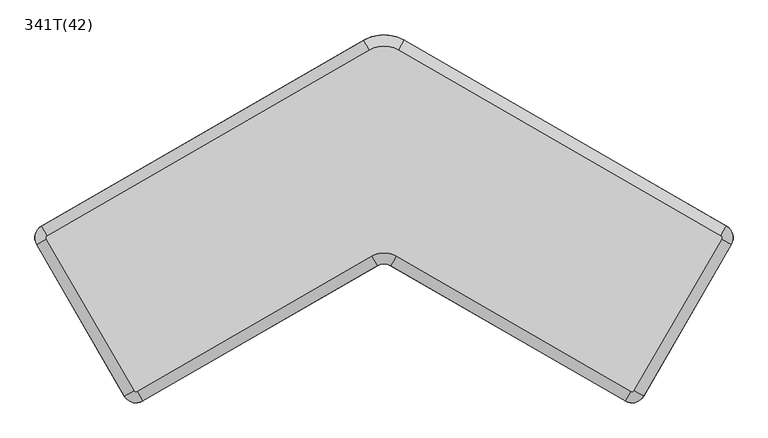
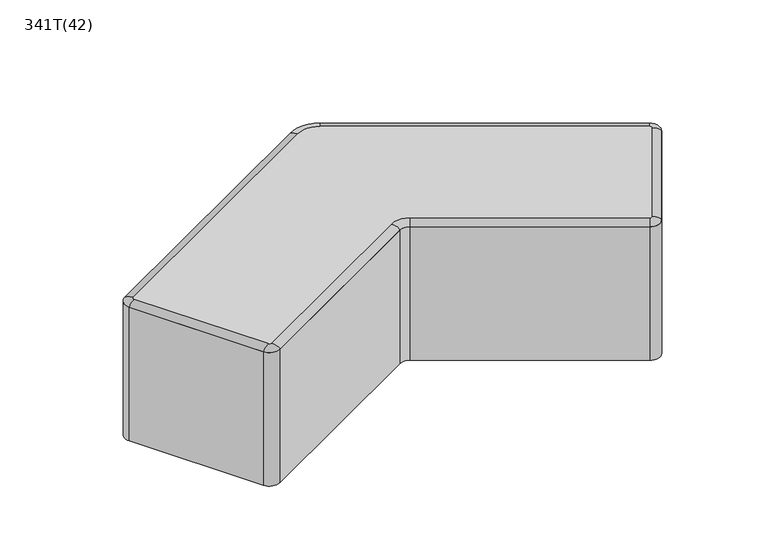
"""IFC4 building model written with IfcOpenShell, lengths in millimetres: furniture geometry, Bit Twist : 341T(42)."""

from ifc_helpers import new_model, si_unit, point, frame, frame_2d, origin, origin_with_axes, place, context, project, spatial, polyline, circle_curve, ellipse_curve, trimmed, segment, composite_curve, outline, extrude, source, transform, mapped, element, save
from ifc_brep_helpers import plane_surface, revolved_surface, extruded_surface, advanced_brep


def furniture_341t_42_9560d308(model_context):
    return source(origin(), model_context, "Body", "SolidModel", [
        advanced_brep(
        [(751.2658774, -13.4807621, 420.0), (749.4359482, -6.6507494, 420.0), (32.5025725, 407.3146157, 420.0), (-32.5036954, 407.3139674, 420.0), (-749.4030097, -6.6507993, 420.0), (-751.2330358, -13.4804445, 420.0), (-556.2660606, -351.230352, 420.0), (-549.4357503, -353.0607966, 420.0), (-27.5, -51.7210506, 420.0), (27.5, -51.7210506, 420.0), (549.4357503, -353.0607966, 420.0), (556.2658774, -351.2306696, 420.0), (772.9165125, -25.9807621, 410.0), (761.9369377, 14.9993145, 410.0), (45.003562, 428.9646795, 410.0), (-45.0051168, 428.9637819, 410.0), (-761.904431, 14.9990151, 410.0), (-772.8845875, -25.9788567, 410.0), (-577.9176124, -363.7287641, 410.0), (-536.9357503, -374.7114317, 410.0), (-15.0, -73.3716857, 410.0), (15.0, -73.3716857, 410.0), (536.9357503, -374.7114317, 410.0), (577.9165125, -363.7306696, 410.0)],
        [
            (0, 1, circle_curve(frame((746.9357503, -10.9807621, 420.0), z_axis=(0.0, 0.0, 1.0), x_axis=(0.8660254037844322, -0.5000000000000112, 0.0)), 5.0)),
            (1, 2),
            (2, 3, circle_curve(frame((0.0, 351.0244499, 420.0), z_axis=(0.0, 0.0, 1.0), x_axis=(0.5000395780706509, 0.8660025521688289, 0.0)), 65.0)),
            (3, 4),
            (4, 5, circle_curve(frame((-746.9027254, -10.9807621, 420.0), z_axis=(0.0, 0.0, 1.0), x_axis=(-0.5000568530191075, 0.865992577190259, 0.0)), 5.0)),
            (5, 6),
            (6, 7, circle_curve(frame((-551.9357503, -348.7306696, 420.0), z_axis=(0.0, 0.0, 1.0), x_axis=(-0.8660620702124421, -0.49993648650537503, 0.0)), 5.0)),
            (7, 8),
            (8, 9, circle_curve(frame((0.0, -99.3524479, 420.0), z_axis=(0.0, 0.0, -1.0), x_axis=(-0.5000000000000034, 0.8660254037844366, 0.0)), 55.0)),
            (9, 10),
            (10, 11, circle_curve(frame((551.9357503, -348.7306696, 420.0), z_axis=(0.0, 0.0, 1.0), x_axis=(-0.5000000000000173, -0.8660254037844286, 0.0)), 5.0)),
            (11, 0),
            (0, 12, ellipse_curve(frame((751.2658774, -13.4807621, 410.0), z_axis=(0.5000000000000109, 0.8660254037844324, 0.0), x_axis=(0.8660254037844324, -0.5000000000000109, 0.0)), 25.0, 10.0)),
            (12, 13, circle_curve(frame((746.9357503, -10.9807621, 410.0), z_axis=(0.0, 0.0, 1.0), x_axis=(0.8660254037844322, -0.5000000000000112, 0.0)), 30.0)),
            (13, 1, ellipse_curve(frame((749.4359482, -6.6507494, 410.0), z_axis=(0.8660025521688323, -0.5000395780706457, 0.0), x_axis=(0.5000395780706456, 0.866002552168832, 0.0)), 25.0, 10.0)),
            (13, 14),
            (14, 2, ellipse_curve(frame((32.5025726, 407.3146158, 410.0), z_axis=(0.8660025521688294, -0.5000395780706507, 0.0), x_axis=(0.5000395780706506, 0.8660025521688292, 0.0)), 25.0, 10.0)),
            (14, 15, circle_curve(frame((0.0, 351.0244499, 410.0), z_axis=(0.0, 0.0, 1.0), x_axis=(0.5000395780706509, 0.8660025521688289, 0.0)), 90.0)),
            (15, 3, ellipse_curve(frame((-32.5036954, 407.3139674, 410.0), z_axis=(0.8659925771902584, 0.5000568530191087, 0.0), x_axis=(-0.5000568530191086, 0.8659925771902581, 0.0)), 25.0, 10.0)),
            (15, 16),
            (16, 4, ellipse_curve(frame((-749.4030097, -6.6507992, 410.0), z_axis=(0.8659925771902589, 0.5000568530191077, 0.0), x_axis=(-0.5000568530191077, 0.8659925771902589, 0.0)), 25.0, 10.0)),
            (16, 17, circle_curve(frame((-746.9027254, -10.9807621, 410.0), z_axis=(0.0, 0.0, 1.0), x_axis=(-0.5000568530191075, 0.865992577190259, 0.0)), 30.0)),
            (17, 5, ellipse_curve(frame((-751.2330358, -13.4804445, 410.0), z_axis=(-0.4999364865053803, 0.8660620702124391, 0.0), x_axis=(-0.8660620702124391, -0.4999364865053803, 0.0)), 25.0, 10.0)),
            (17, 18),
            (18, 6, ellipse_curve(frame((-556.2660607, -351.230352, 410.0), z_axis=(-0.49993648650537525, 0.866062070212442, 0.0), x_axis=(-0.866062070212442, -0.49993648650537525, 0.0)), 25.0, 10.0)),
            (18, 19, circle_curve(frame((-551.9357503, -348.7306696, 410.0), z_axis=(0.0, 0.0, 1.0), x_axis=(-0.8660620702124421, -0.49993648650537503, 0.0)), 30.0)),
            (19, 7, ellipse_curve(frame((-549.4357503, -353.0607966, 410.0), z_axis=(-0.8660254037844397, -0.49999999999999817, 0.0), x_axis=(0.49999999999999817, -0.8660254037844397, 0.0)), 25.0, 10.0)),
            (19, 20),
            (20, 8, ellipse_curve(frame((-27.5, -51.7210506, 410.0), z_axis=(-0.8660254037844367, -0.5000000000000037, 0.0), x_axis=(0.5000000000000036, -0.8660254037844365, 0.0)), 25.0, 10.0)),
            (20, 21, circle_curve(frame((0.0, -99.3524479, 410.0), z_axis=(0.0, 0.0, -1.0), x_axis=(-0.5000000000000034, 0.8660254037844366, 0.0)), 30.0)),
            (21, 9, ellipse_curve(frame((27.5, -51.7210506, 410.0), z_axis=(-0.8660254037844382, 0.5000000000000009, 0.0), x_axis=(-0.5000000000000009, -0.8660254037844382, 0.0)), 25.0, 10.0)),
            (21, 22),
            (22, 10, ellipse_curve(frame((549.4357503, -353.0607966, 410.0), z_axis=(-0.8660254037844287, 0.5000000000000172, 0.0), x_axis=(-0.5000000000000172, -0.8660254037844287, 0.0)), 25.0, 10.0)),
            (22, 23, circle_curve(frame((551.9357503, -348.7306696, 410.0), z_axis=(0.0, 0.0, 1.0), x_axis=(-0.5000000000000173, -0.8660254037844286, 0.0)), 30.0)),
            (23, 11, ellipse_curve(frame((556.2658774, -351.2306696, 410.0), z_axis=(-0.5000000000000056, -0.8660254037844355, 0.0), x_axis=(0.8660254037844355, -0.5000000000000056, 0.0)), 25.0, 10.0)),
            (12, 23),
        ],
        [
            plane_surface(frame((32.5025726, 407.3146158, 420.0), z_axis=(0.0, 0.0, 1.0), x_axis=(-0.8660025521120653, 0.500039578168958, 0.0))),
            revolved_surface(trimmed(ellipse_curve(frame((751.2658774, -13.4807621, 410.0), z_axis=(-0.5000000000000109, -0.8660254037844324, 0.0), x_axis=(0.8660254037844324, -0.5000000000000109, 0.0)), 25.0, 10.0), [point((772.9165125, -25.9807621, 410.0))], [point((751.2658774, -13.4807621, 420.0))], True, "CARTESIAN"), (746.9357503, -10.9807621, 410.0), (0.0, 0.0, 1.0)),
            extruded_surface(trimmed(ellipse_curve(frame((32.5025725, 407.3146157, 410.0), z_axis=(0.8660025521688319, -0.500039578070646, 0.0), x_axis=(0.500039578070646, 0.8660025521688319, 0.0)), 25.0, 10.0), [point((45.003562, 428.9646795, 410.0))], [point((32.5025725, 407.3146157, 420.0))], True, "CARTESIAN"), (716.9333756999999, -413.9653651, 0.0), 827.8651995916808),
            revolved_surface(trimmed(ellipse_curve(frame((32.5025726, 407.3146158, 410.0), z_axis=(0.8660025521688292, -0.5000395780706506, 0.0), x_axis=(0.5000395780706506, 0.8660025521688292, 0.0)), 25.0, 10.0), [point((45.003562, 428.9646796, 410.0))], [point((32.5025726, 407.3146158, 420.0))], True, "CARTESIAN"), (0.0, 351.0244499, 410.0), (0.0, 0.0, 1.0)),
            extruded_surface(trimmed(ellipse_curve(frame((-749.4030097, -6.6507993, 410.0), z_axis=(0.8659925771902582, 0.5000568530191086, 0.0), x_axis=(-0.5000568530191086, 0.8659925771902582, 0.0)), 25.0, 10.0), [point((-761.904431, 14.9990151, 410.0))], [point((-749.4030097, -6.6507993, 420.0))], True, "CARTESIAN"), (716.8993144, 413.9647666, 0.0), 827.8354033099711),
            revolved_surface(trimmed(ellipse_curve(frame((-749.4030097, -6.6507992, 410.0), z_axis=(0.8659925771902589, 0.5000568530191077, 0.0), x_axis=(-0.5000568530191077, 0.8659925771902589, 0.0)), 25.0, 10.0), [point((-761.904431, 14.9990152, 410.0))], [point((-749.4030097, -6.6507992, 420.0))], True, "CARTESIAN"), (-746.9027254, -10.9807621, 410.0), (0.0, 0.0, 1.0)),
            extruded_surface(trimmed(ellipse_curve(frame((-556.2660606, -351.230352, 410.0), z_axis=(-0.49993648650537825, 0.8660620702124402, 0.0), x_axis=(-0.8660620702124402, -0.49993648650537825, 0.0)), 25.0, 10.0), [point((-577.9176124, -363.7287641, 410.0))], [point((-556.2660606, -351.230352, 420.0))], True, "CARTESIAN"), (-194.9669751, 337.7499075, 0.0), 389.9834886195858),
            revolved_surface(trimmed(ellipse_curve(frame((-556.2660607, -351.230352, 410.0), z_axis=(-0.49993648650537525, 0.866062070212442, 0.0), x_axis=(-0.866062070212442, -0.49993648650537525, 0.0)), 25.0, 10.0), [point((-577.9176125, -363.7287642, 410.0))], [point((-556.2660607, -351.230352, 420.0))], True, "CARTESIAN"), (-551.9357503, -348.7306696, 410.0), (0.0, 0.0, 1.0)),
            extruded_surface(trimmed(ellipse_curve(frame((-27.5, -51.7210506, 410.0), z_axis=(-0.8660254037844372, -0.5000000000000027, 0.0), x_axis=(0.5000000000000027, -0.8660254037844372, 0.0)), 25.0, 10.0), [point((-15.0, -73.3716857, 410.0))], [point((-27.5, -51.7210506, 420.0))], True, "CARTESIAN"), (-521.9357503, -301.339746, 0.0), 602.6794919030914),
            revolved_surface(trimmed(ellipse_curve(frame((-27.5, -51.7210506, 410.0), z_axis=(-0.8660254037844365, -0.5000000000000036, 0.0), x_axis=(0.5000000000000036, -0.8660254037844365, 0.0)), 25.0, 10.0), [point((-15.0, -73.3716857, 410.0))], [point((-27.5, -51.7210506, 420.0))], True, "CARTESIAN"), (0.0, -99.3524479, 410.0), (0.0, 0.0, -1.0)),
            extruded_surface(trimmed(ellipse_curve(frame((549.4357503, -353.0607966, 410.0), z_axis=(-0.8660254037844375, 0.5000000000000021, 0.0), x_axis=(-0.5000000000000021, -0.8660254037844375, 0.0)), 25.0, 10.0), [point((536.9357503, -374.7114317, 410.0))], [point((549.4357503, -353.0607966, 420.0))], True, "CARTESIAN"), (-521.9357503, 301.339746, 0.0), 602.6794919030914),
            revolved_surface(trimmed(ellipse_curve(frame((549.4357503, -353.0607966, 410.0), z_axis=(-0.8660254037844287, 0.5000000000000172, 0.0), x_axis=(-0.5000000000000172, -0.8660254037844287, 0.0)), 25.0, 10.0), [point((536.9357503, -374.7114317, 410.0))], [point((549.4357503, -353.0607966, 420.0))], True, "CARTESIAN"), (551.9357503, -348.7306696, 410.0), (0.0, 0.0, 1.0)),
            plane_surface(frame((556.2658774, -351.2306696, 410.0), z_axis=(0.0, 0.0, -1.0), x_axis=(0.5000000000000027, 0.8660254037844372, 0.0))),
            extruded_surface(trimmed(ellipse_curve(frame((751.2658774, -13.4807621, 410.0), z_axis=(-0.5000000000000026, -0.8660254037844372, 0.0), x_axis=(0.8660254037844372, -0.5000000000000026, 0.0)), 25.0, 10.0), [point((772.9165125, -25.9807621, 410.0))], [point((751.2658774, -13.4807621, 420.0))], True, "CARTESIAN"), (-195.0, -337.7499075, 0.0), 390.0000000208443),
        ],
        [
            (0, [[1, 2, 3, 4, 5, 6, 7, 8, 9, 10, 11, 12]]),
            (1, [[13, 14, 15, -1]]),
            (2, [[-15, 16, 17, -2]]),
            (3, [[-17, 18, 19, -3]]),
            (4, [[-19, 20, 21, -4]]),
            (5, [[-21, 22, 23, -5]]),
            (6, [[-23, 24, 25, -6]]),
            (7, [[-25, 26, 27, -7]]),
            (8, [[-27, 28, 29, -8]]),
            (9, [[-29, 30, 31, -9]]),
            (10, [[-31, 32, 33, -10]]),
            (11, [[-33, 34, 35, -11]]),
            (12, [[-14, 36, -34, -32, -30, -28, -26, -24, -22, -20, -18, -16]]),
            (13, [[-13, -12, -35, -36]]),
        ],
    ),
        extrude(outline(composite_curve([segment(polyline([(-761.9027254, 15.0), (-45.0, 428.9667363)]), True, "CONTINUOUS"), segment(trimmed(circle_curve(frame_2d((0.0, 351.0244499)), 90.0), [point((-45.0, 428.9667363))], [point((45.0, 428.9667363))], False, "CARTESIAN"), True, "CONTINUOUS"), segment(polyline([(45.0, 428.9667363), (761.9357503, 15.0)]), True, "CONTINUOUS"), segment(trimmed(circle_curve(frame_2d((746.9357503, -10.9807621)), 30.0), [point((761.9357503, 15.0))], [point((772.9165125, -25.9807621))], False, "CARTESIAN"), True, "CONTINUOUS"), segment(polyline([(772.9165125, -25.9807621), (577.9165125, -363.7306696)]), True, "CONTINUOUS"), segment(trimmed(circle_curve(frame_2d((551.9357503, -348.7306696)), 30.0), [point((577.9165125, -363.7306696))], [point((536.9357503, -374.7114317))], False, "CARTESIAN"), True, "CONTINUOUS"), segment(polyline([(536.9357503, -374.7114317), (15.0, -73.3716857)]), True, "CONTINUOUS"), segment(trimmed(circle_curve(frame_2d((0.0, -99.3524479)), 30.0), [point((15.0, -73.3716857))], [point((-15.0, -73.3716857))], True, "CARTESIAN"), True, "CONTINUOUS"), segment(polyline([(-15.0, -73.3716857), (-536.9357503, -374.7114317)]), True, "CONTINUOUS"), segment(trimmed(circle_curve(frame_2d((-551.9357503, -348.7306696)), 30.0), [point((-536.9357503, -374.7114317))], [point((-577.9165125, -363.7306696))], False, "CARTESIAN"), True, "CONTINUOUS"), segment(polyline([(-577.9165125, -363.7306696), (-772.8834875, -25.9807621)]), True, "CONTINUOUS"), segment(trimmed(circle_curve(frame_2d((-746.9027254, -10.9807621)), 30.0), [point((-772.8834875, -25.9807621))], [point((-761.9027254, 15.0))], False, "CARTESIAN"), True, "CONTINUOUS")], self_intersect=False)), origin_with_axes(), (0.0, 0.0, 1.0), 410.0),
    ])


if __name__ == "__main__":
    model = new_model("IFC4")
    model_context = context("Model", 3, world=origin())
    ifc_project = project(units=[si_unit("LENGTHUNIT", "METRE", prefix="MILLI")], contexts=[model_context])
    site = spatial("IfcSite", under=ifc_project)
    building = spatial("IfcBuilding", under=site)
    placement = place(None, origin())
    furniture_341t_42_shape = furniture_341t_42_9560d308(model_context)
    element("IfcFurniture", 1, ObjectType="Bit Twist : 341T(42)", at=placement, inside=building, context=model_context, shape_type="MappedRepresentation", body=[
        mapped(furniture_341t_42_shape, transform((0.0, 0.0, 0.0), x_axis=(1.0, 0.0, 0.0), y_axis=(0.0, 1.0, 0.0), z_axis=(0.0, 0.0, 1.0))),
    ])
    save(model, "model.ifc")
